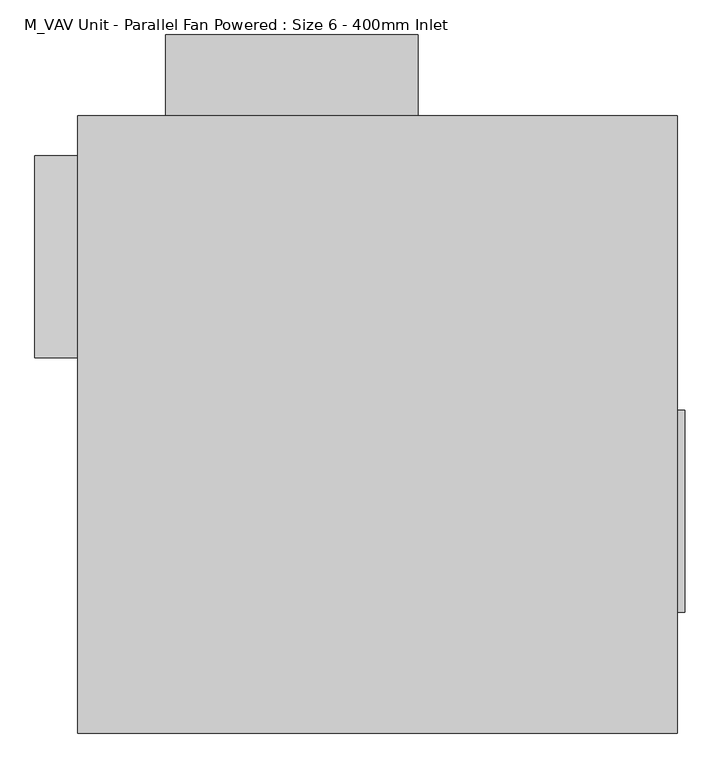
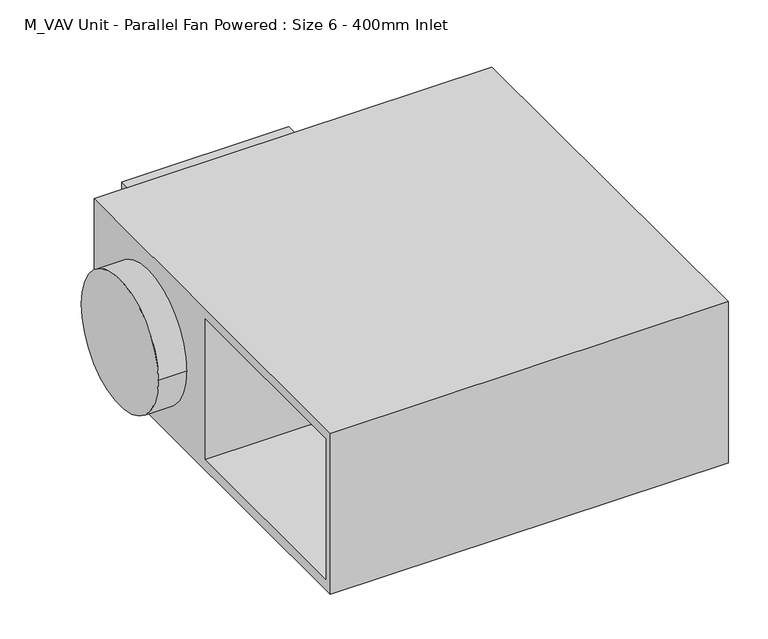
"""IFC4 building model written with IfcOpenShell, lengths in millimetres: proxy geometry, M_VAV Unit - Parallel Fan Powered : Size 6 - 400mm Inlet."""

import ifcopenshell
import ifcopenshell.guid

model = None  # the IFC model being written
_history = None  # IfcOwnerHistory: only IFC2X3 demands one
_inside = {}  # id of a spatial element -> (the spatial element, [elements in it])
_under = {}  # id of a project, library or spatial element -> (it, [spatial elements below it])
_declared = {}  # id of a project -> (the project, [libraries it declares])
_typed = {}  # id of a type object -> (the type object, [elements of that type])
_made_of = {}  # id of a material, layer set ... -> (it, [elements and type objects made of it])


def new_model(schema):
    """Start an empty IFC model of exactly this schema.

    Asked for "IFC4X3", IfcOpenShell would pick the latest addendum, in which some entities
    have other attributes; the version numbers below select the first issue.
    IFC2X3 requires an IfcOwnerHistory on every rooted entity: one is made here for all.
    """
    global model, _history
    if schema == "IFC4X3":
        model = ifcopenshell.file(schema_version=(4, 3, 0, 0))
    else:
        model = ifcopenshell.file(schema=schema)
    _inside.clear()
    _under.clear()
    _declared.clear()
    _typed.clear()
    _made_of.clear()
    _history = None
    if model.schema == "IFC2X3":
        org = make("IfcOrganization", Name="unknown")
        user = make(
            "IfcPersonAndOrganization",
            ThePerson=make("IfcPerson", FamilyName="unknown"),
            TheOrganization=org,
        )
        app = make(
            "IfcApplication",
            ApplicationDeveloper=org,
            Version="unknown",
            ApplicationFullName="unknown",
            ApplicationIdentifier="unknown",
        )
        _history = make(
            "IfcOwnerHistory",
            OwningUser=user,
            OwningApplication=app,
            ChangeAction="ADDED",
            CreationDate=0,
        )
    return model


def make(cls, **values):
    """One entity of the class cls with the attributes given. An attribute that is None is left unset."""
    return model.create_entity(
        cls, **{name: value for name, value in values.items() if value is not None}
    )


def rooted(cls, **values):
    """An entity with a GlobalId (a new one), such as an element, a storey or a relation."""
    return make(cls, GlobalId=ifcopenshell.guid.new(), OwnerHistory=_history, **values)


def si_unit(unit_type, name, prefix=None):
    """IfcSIUnit, for example si_unit("LENGTHUNIT", "METRE", prefix="MILLI")."""
    return make("IfcSIUnit", UnitType=unit_type, Prefix=prefix, Name=name)


def assignment(units):
    """IfcUnitAssignment: the units of a project."""
    return None if units is None else make("IfcUnitAssignment", Units=units)


def point(xyz):
    """IfcCartesianPoint."""
    return None if xyz is None else make("IfcCartesianPoint", Coordinates=xyz)


def direction(xyz):
    """IfcDirection."""
    return None if xyz is None else make("IfcDirection", DirectionRatios=xyz)


def frame(location, z_axis=None, x_axis=None):
    """IfcAxis2Placement3D, a coordinate frame: its origin and axes. An axis left out is left unset."""
    return make(
        "IfcAxis2Placement3D",
        Location=point(location),
        Axis=direction(z_axis),
        RefDirection=direction(x_axis),
    )


def frame_2d(location, x_axis=None):
    """IfcAxis2Placement2D, a coordinate frame in the plane: its origin and x axis."""
    return make(
        "IfcAxis2Placement2D", Location=point(location), RefDirection=direction(x_axis)
    )


def origin():
    """The frame at (0, 0, 0) with its axes left unset."""
    return frame((0.0, 0.0, 0.0))


def place(relative_to, where):
    """IfcLocalPlacement: puts the frame where relative to a parent placement (None: the world)."""
    return make(
        "IfcLocalPlacement", PlacementRelTo=relative_to, RelativePlacement=where
    )


def context(
    kind, dimensions, precision=None, world=None, true_north=None, identifier=None
):
    """IfcGeometricRepresentationContext, for example the 3D "Model" context."""
    return make(
        "IfcGeometricRepresentationContext",
        ContextIdentifier=identifier,
        ContextType=kind,
        CoordinateSpaceDimension=dimensions,
        Precision=precision,
        WorldCoordinateSystem=world,
        TrueNorth=true_north,
    )


def project(units=None, contexts=None):
    """IfcProject with its units and contexts."""
    return rooted(
        "IfcProject",
        Name="project",
        RepresentationContexts=contexts,
        UnitsInContext=assignment(units),
    )


def spatial(cls, under=None, at=None, **own):
    """A site, building, storey or space (cls), placed at a placement, below another one or the project."""
    s = rooted(cls, ObjectPlacement=at, **own)
    if under is not None:
        _under.setdefault(under.id(), (under, []))[1].append(s)
    return s


def polyline(points):
    """IfcPolyline through the points."""
    return make("IfcPolyline", Points=[point(p) for p in points])


def circle_curve(where, radius):
    """IfcCircle in the frame where."""
    return make("IfcCircle", Position=where, Radius=radius)


def trimmed(basis, trim1, trim2, sense, master):
    """IfcTrimmedCurve: the piece of a basis curve between two trims."""
    return make(
        "IfcTrimmedCurve",
        BasisCurve=basis,
        Trim1=trim1,
        Trim2=trim2,
        SenseAgreement=sense,
        MasterRepresentation=master,
    )


def segment(curve, same_sense, transition):
    """IfcCompositeCurveSegment."""
    return make(
        "IfcCompositeCurveSegment",
        Transition=transition,
        SameSense=same_sense,
        ParentCurve=curve,
    )


def composite_curve(segments, self_intersect=None):
    """IfcCompositeCurve: segments joined end to end."""
    return make("IfcCompositeCurve", Segments=segments, SelfIntersect=self_intersect)


def outline(outer, holes=None, kind="AREA"):
    """IfcArbitraryClosedProfileDef: a profile drawn as a closed curve; with holes, ...WithVoids."""
    if holes is None:
        return make("IfcArbitraryClosedProfileDef", ProfileType=kind, OuterCurve=outer)
    return make(
        "IfcArbitraryProfileDefWithVoids",
        ProfileType=kind,
        OuterCurve=outer,
        InnerCurves=holes,
    )


def extrude(swept, where, along, depth):
    """IfcExtrudedAreaSolid: the profile swept, set in the frame where, extruded along a direction by depth."""
    return make(
        "IfcExtrudedAreaSolid",
        SweptArea=swept,
        Position=where,
        ExtrudedDirection=direction(along),
        Depth=depth,
    )


def faces_of(points, faces, orient=None, outer=None):
    """IfcFace entities. A face is a list of loops; a loop is a list of indices into points, from 0.

    orient and outer hold one flag for each loop. By default every Orientation is true, the
    first loop of a face is its IfcFaceOuterBound and the others are IfcFaceBound.
    """
    made = []
    for i, loops in enumerate(faces):
        bounds = []
        for j, loop in enumerate(loops):
            is_outer = j == 0 if outer is None else outer[i][j]
            bounds.append(
                make(
                    "IfcFaceOuterBound" if is_outer else "IfcFaceBound",
                    Bound=make("IfcPolyLoop", Polygon=[points[k] for k in loop]),
                    Orientation=True if orient is None else orient[i][j],
                )
            )
        made.append(make("IfcFace", Bounds=bounds))
    return made


def faceted_brep(points, faces, orient=None, outer=None, voids=None):
    """IfcFacetedBrep: a solid bounded by flat faces; with voids (closed shells), ...WithVoids."""
    shared = [point(p) for p in points]
    hull = make("IfcClosedShell", CfsFaces=faces_of(shared, faces, orient, outer))
    if voids is None:
        return make("IfcFacetedBrep", Outer=hull)
    return make(
        "IfcFacetedBrepWithVoids",
        Outer=hull,
        Voids=[
            make(cls, CfsFaces=faces_of(shared, fs, o, b)) for cls, fs, o, b in voids
        ],
    )


def shape(context_of_items, identifier, shape_type, items):
    """IfcShapeRepresentation: the items that make up one representation, for example the "Body"."""
    return make(
        "IfcShapeRepresentation",
        ContextOfItems=context_of_items,
        RepresentationIdentifier=identifier,
        RepresentationType=shape_type,
        Items=items,
    )


def source(mapping_origin, context_of_items, identifier, shape_type, items):
    """IfcRepresentationMap: a shape defined once, which mapped items show again and again."""
    return make(
        "IfcRepresentationMap",
        MappingOrigin=mapping_origin,
        MappedRepresentation=shape(context_of_items, identifier, shape_type, items),
    )


def transform(
    local_origin,
    x_axis=None,
    y_axis=None,
    z_axis=None,
    scale=None,
    scale2=None,
    scale3=None,
    uniform=True,
):
    """IfcCartesianTransformationOperator3D, or its non-uniform kind. x_axis, y_axis, z_axis: its Axis1, 2, 3."""
    if uniform:
        return make(
            "IfcCartesianTransformationOperator3D",
            Axis1=direction(x_axis),
            Axis2=direction(y_axis),
            LocalOrigin=point(local_origin),
            Scale=scale,
            Axis3=direction(z_axis),
        )
    return make(
        "IfcCartesianTransformationOperator3DnonUniform",
        Axis1=direction(x_axis),
        Axis2=direction(y_axis),
        LocalOrigin=point(local_origin),
        Scale=scale,
        Axis3=direction(z_axis),
        Scale2=scale2,
        Scale3=scale3,
    )


def mapped(mapping_source, mapping_target):
    """IfcMappedItem: shows the shape of a source again, moved by a transform."""
    return make(
        "IfcMappedItem", MappingSource=mapping_source, MappingTarget=mapping_target
    )


def made_of(thing, what):
    """Note that an element or type object is made of a material, layer set ...; save() writes the relation."""
    if what is not None:
        _made_of.setdefault(what.id(), (what, []))[1].append(thing)
    return thing


def element(
    cls,
    number,
    at=None,
    inside=None,
    cuts=None,
    type_object=None,
    material=None,
    context=None,
    identifier="Body",
    shape_type=None,
    held_by="IfcProductDefinitionShape",
    body=None,
    shapes=None,
    **own,
):
    """One element of the class cls, such as IfcWall. Its Tag is "e" and its number.

    at: its placement. inside: the storey or other place that contains it. cuts: it is an
    opening in that element (IfcRelVoidsElement). A single representation is given by context,
    identifier, shape_type and body (its items); several are given by shapes. held_by: the class
    of the entity that holds the representations. save() writes the other relations.
    """
    e = rooted(cls, Tag="e%d" % number, ObjectPlacement=at, **own)
    if body is not None:
        shapes = [shape(context, identifier, shape_type, body)]
    if shapes is not None:
        e.Representation = make(held_by, Representations=shapes)
    if inside is not None:
        _inside.setdefault(inside.id(), (inside, []))[1].append(e)
    if cuts is not None:
        rooted(
            "IfcRelVoidsElement", RelatingBuildingElement=cuts, RelatedOpeningElement=e
        )
    if type_object is not None:
        _typed.setdefault(type_object.id(), (type_object, []))[1].append(e)
    return made_of(e, material)


def aggregate(whole, parts):
    """IfcRelAggregates: a whole, such as a stair, and the parts it consists of."""
    return rooted("IfcRelAggregates", RelatingObject=whole, RelatedObjects=parts)


def save(model, path):
    """Write the relations noted so far, then the file.

    IfcRelAggregates (storeys below a building ...), IfcRelContainedInSpatialStructure (elements
    in a storey), IfcRelDefinesByType, IfcRelAssociatesMaterial and IfcRelDeclares: one each for
    every whole, place, type object, material and project.
    """
    for whole, parts in _under.values():
        aggregate(whole, parts)
    for where, things in _inside.values():
        rooted(
            "IfcRelContainedInSpatialStructure",
            RelatedElements=things,
            RelatingStructure=where,
        )
    for kind, things in _typed.values():
        rooted("IfcRelDefinesByType", RelatedObjects=things, RelatingType=kind)
    for what, things in _made_of.values():
        rooted("IfcRelAssociatesMaterial", RelatedObjects=things, RelatingMaterial=what)
    for by, libraries in _declared.values():
        rooted("IfcRelDeclares", RelatingContext=by, RelatedDefinitions=libraries)
    model.write(path)


def m_vav_unit_parallel_fan_powered_size_6_400mm_inlet_587ab7bd(model_context):
    return source(origin(), model_context, "Body", "SolidModel", [
        extrude(outline(polyline([(610.0, 27.5), (610.0, -372.5), (519.1125, -372.5), (519.1125, 27.5), (610.0, 27.5)])), frame((0.0, 0.0, -175.0), z_axis=(0.0, 0.0, 1.0), x_axis=(1.0, 0.0, 0.0)), (0.0, 0.0, 1.0), 350.0),
        extrude(outline(polyline([(80.0, 612.5), (-420.0, 612.5), (-420.0, 772.5), (80.0, 772.5), (80.0, 612.5)])), frame((0.0, 0.0, -150.0), z_axis=(0.0, 0.0, 1.0), x_axis=(1.0, 0.0, 0.0)), (0.0, 0.0, 1.0), 300.0),
        extrude(outline(composite_curve([segment(trimmed(circle_curve(frame_2d((332.5, 0.0)), 200.0), [point((132.5, 0.0))], [point((532.5, 0.0))], False, "CARTESIAN"), True, "CONTINUOUS"), segment(trimmed(circle_curve(frame_2d((332.5, 0.0)), 200.0), [point((532.5, 0.0))], [point((132.5, 0.0))], False, "CARTESIAN"), True, "CONTINUOUS")], self_intersect=False)), frame((-680.0, 0.0, 0.0), z_axis=(1.0, 0.0, 0.0), x_axis=(0.0, 1.0, 0.0)), (0.0, 0.0, 1.0), 85.0),
        faceted_brep([(595.0, 612.5, 255.0), (-595.0, 612.5, 255.0), (-595.0, -612.5, 255.0), (595.0, -612.5, 255.0), (595.0, 612.5, -255.0), (595.0, -612.5, -255.0), (-595.0, -612.5, -255.0), (-595.0, 612.5, -255.0), (-595.0, -587.5, 222.5), (-595.0, -587.5, -222.5), (-595.0, 37.5, -222.5), (-595.0, 37.5, 222.5), (0.0, -587.5, 222.5), (0.0, 37.5, 222.5), (0.0, 37.5, -222.5), (0.0, -587.5, -222.5)], [[[0, 1, 2, 3]], [[4, 5, 6, 7]], [[1, 0, 4, 7]], [[2, 1, 7, 6], [8, 9, 10, 11]], [[3, 2, 6, 5]], [[0, 3, 5, 4]], [[12, 13, 14, 15]], [[12, 15, 9, 8]], [[15, 14, 10, 9]], [[14, 13, 11, 10]], [[13, 12, 8, 11]]]),
    ])


if __name__ == "__main__":
    model = new_model("IFC4")
    model_context = context("Model", 3, world=origin())
    ifc_project = project(units=[si_unit("LENGTHUNIT", "METRE", prefix="MILLI")], contexts=[model_context])
    site = spatial("IfcSite", under=ifc_project)
    building = spatial("IfcBuilding", under=site)
    placement = place(None, origin())
    m_vav_unit_parallel_fan_powered_size_6_400mm_inlet_shape = m_vav_unit_parallel_fan_powered_size_6_400mm_inlet_587ab7bd(model_context)
    element("IfcBuildingElementProxy", 1, Name="M_VAV Unit - Parallel Fan Powered : Size 6 - 400mm Inlet", ObjectType="M_VAV Unit - Parallel Fan Powered : Size 6 - 400mm Inlet", at=placement, inside=building, context=model_context, shape_type="MappedRepresentation", body=[
        mapped(m_vav_unit_parallel_fan_powered_size_6_400mm_inlet_shape, transform((0.0, 0.0, 0.0), x_axis=(1.0, 0.0, 0.0), y_axis=(0.0, 1.0, 0.0), z_axis=(0.0, 0.0, 1.0))),
    ])
    save(model, "model.ifc")
